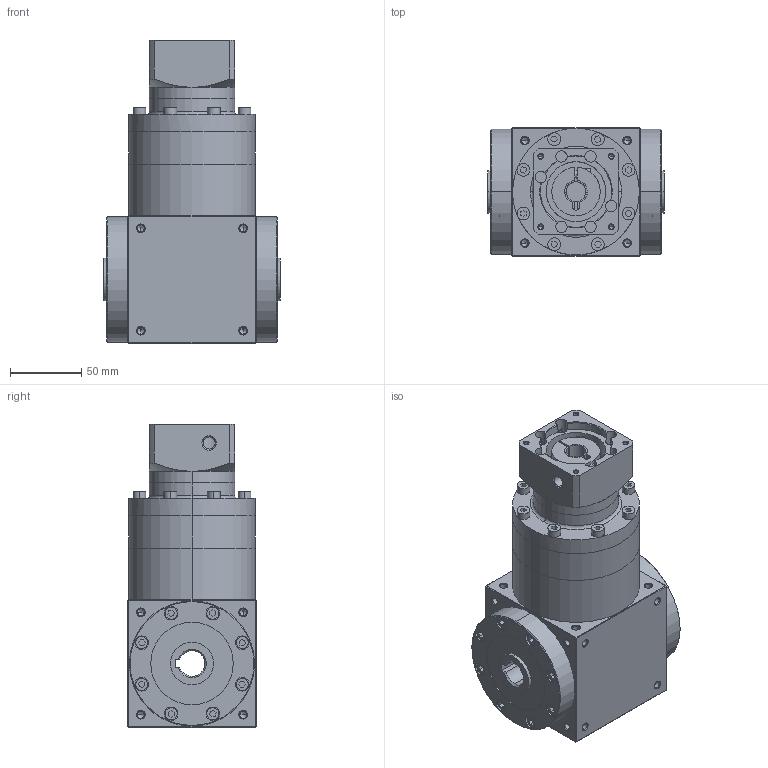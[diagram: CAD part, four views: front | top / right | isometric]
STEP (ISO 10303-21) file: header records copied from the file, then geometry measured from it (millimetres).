
FILE_DESCRIPTION (( 'STEP AP203' ), '1' );
FILE_NAME ('AT090-FH-L3-14-50-70M4.STEP', '2025-08-13T05:55:02', ( 'Windows User' ), ( 'P R C' ), 'SwSTEP 2.0', 'SolidWorks 2016', '' );
FILE_SCHEMA (( 'CONFIG_CONTROL_DESIGN' ));
Length unit declared in the file: millimetre
Products named in the file (7): AT090-FH-L3-14-50-70M4; AT090-蛌褒眊极-謂-怀堤; AT090-蛌倰怀堤楊擘; AT090-单级齿圈; AT090-双级齿圈; AT090-输入法兰-A-50-M4-70; 输入胀套-16
Assembly tree (6 placements, depth 2):
  AT090-FH-L3-14-50-70M4
    AT090-蛌褒眊极-謂-怀堤
    AT090-蛌倰怀堤楊擘
    AT090-单级齿圈
    AT090-双级齿圈
    AT090-输入法兰-A-50-M4-70
    输入胀套-16
Bounding box: 124 x 90 x 213 mm (x, y, z)
Volume: 1126426 mm3; surface area: 204365.8 mm2
Topology: 13 solids, 25 shells, 1479 faces, 3806 edges, 2401 vertices
Faces by surface type: plane 761, cylinder 330, cone 237, bspline 151
Entity records: 51334 total; most frequent: CARTESIAN_POINT 16032, ORIENTED_EDGE 7424, DIRECTION 6635, EDGE_CURVE 3712, VERTEX_POINT 2400, VECTOR 2393, LINE 2393, AXIS2_PLACEMENT_3D 2121
